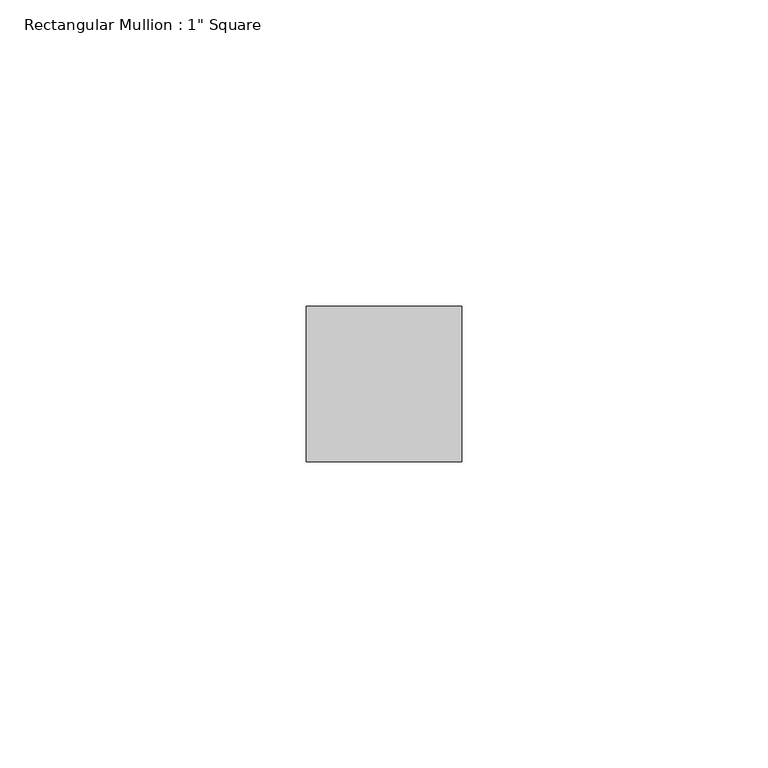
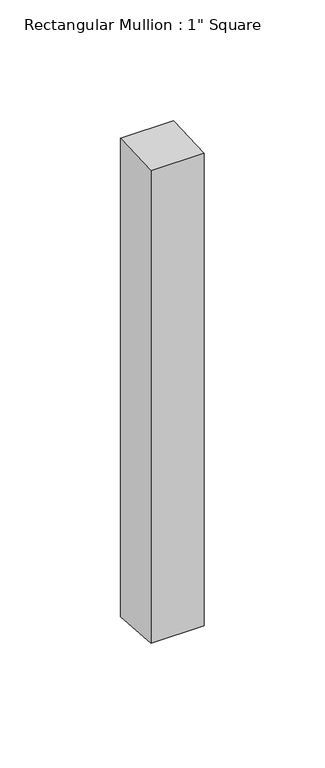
"""IFC4 building model written with IfcOpenShell, lengths in millimetres: member geometry."""

from ifc_helpers import new_model, si_unit, origin, place, context, project, spatial, faceted_brep, source, transform, mapped, element, save


def member_e0eebeff(model_context):
    return source(origin(), model_context, "Body", "Brep", [
        faceted_brep([(-25.4, 12.7, 0.5240564), (0.0, 12.7, 0.5286404), (0.0, 12.7, -241.491086), (-25.4, 12.7, -241.4825361), (-25.4, -12.7, -0.5332245), (-25.4, -12.7, -239.5105484), (0.0, -12.7, -0.5286404), (0.0, -12.7, -239.5190983)], [[[0, 1, 2, 3]], [[4, 0, 3, 5]], [[6, 4, 5, 7]], [[1, 6, 7, 2]], [[1, 0, 4, 6]], [[2, 7, 5, 3]]]),
    ])


if __name__ == "__main__":
    model = new_model("IFC4")
    model_context = context("Model", 3, world=origin())
    ifc_project = project(units=[si_unit("LENGTHUNIT", "METRE", prefix="MILLI")], contexts=[model_context])
    site = spatial("IfcSite", under=ifc_project)
    building = spatial("IfcBuilding", under=site)
    placement = place(None, origin())
    member_shape = member_e0eebeff(model_context)
    element("IfcMember", 1, ObjectType="Rectangular Mullion : 1\" Square", at=placement, inside=building, context=model_context, shape_type="MappedRepresentation", body=[
        mapped(member_shape, transform((0.0, 0.0, 0.0), x_axis=(1.0, 0.0, 0.0), y_axis=(0.0, 1.0, 0.0), z_axis=(0.0, 0.0, 1.0))),
    ])
    save(model, "model.ifc")
